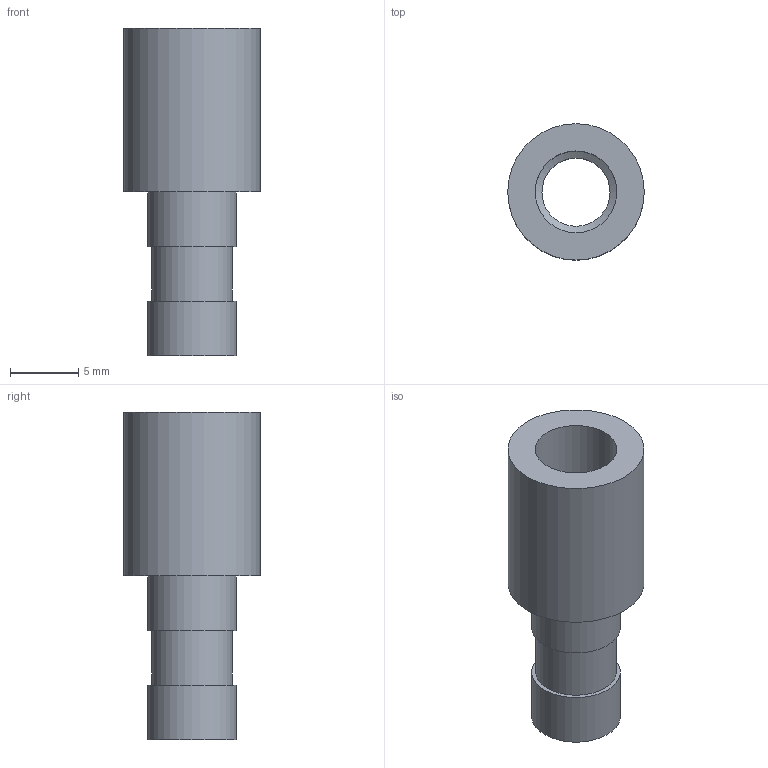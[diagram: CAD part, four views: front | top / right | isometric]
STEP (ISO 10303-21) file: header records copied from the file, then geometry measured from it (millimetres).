
FILE_DESCRIPTION((''),'2;1');
FILE_NAME('C:\Documents and Settings\mika1\Mes documents\pulverisation\MarcheLully\NewBuse\EI-DouilleD12.stp','2016-07-28T21:25:18',('mika1'),(''),'Autodesk Inventor 2008','Autodesk Inventor 2008','');
FILE_SCHEMA(('AUTOMOTIVE_DESIGN { 1 0 10303 214 1 1 1 1 }'));
Length unit declared in the file: millimetre
Products named in the file (1): EI-DouilleD12
Bounding box: 10 x 10 x 24 mm (x, y, z)
Volume: 754.1 mm3; surface area: 1150.6 mm2
Topology: 1 solids, 1 shells, 12 faces, 19 edges, 12 vertices
Faces by surface type: plane 5, cylinder 5, bspline 2
Full cylindrical faces by diameter (mm): 5 x1, 5.9 x1, 6.5 x2, 10 x1
Entity records: 300 total; most frequent: CARTESIAN_POINT 71, DIRECTION 46, ORIENTED_EDGE 24, EDGE_LOOP 24, AXIS2_PLACEMENT_3D 23, VERTEX_POINT 12, CIRCLE 12, EDGE_CURVE 12
